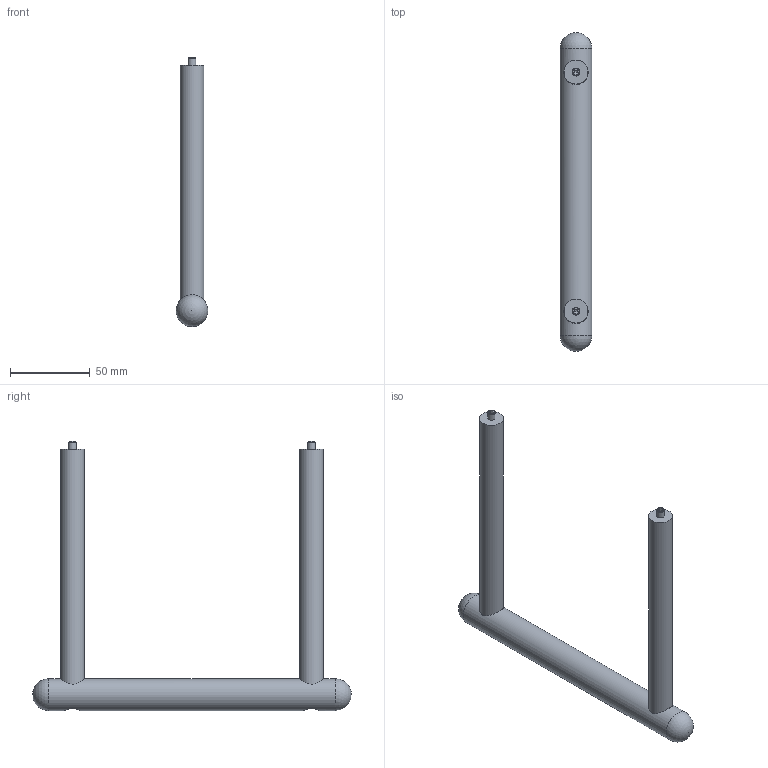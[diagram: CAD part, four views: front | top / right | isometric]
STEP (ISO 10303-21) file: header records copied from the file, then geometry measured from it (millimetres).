
FILE_DESCRIPTION(/* description */ ('Poignée pour 159-008'),/* implementation_level */ '2;1');
FILE_NAME(/* name */ 'S:\Bureau-Technique\Dispositif\MA 155-062-30.stp',/* time_stamp */ '2019-02-28T08:11:03+01:00',/* author */ ('ms'),/* organization */ ('Marcel Aubert'),/* preprocessor_version */ 'ST-DEVELOPER v17.2',/* originating_system */ 'Autodesk Inventor 2019',/* authorisation */ '');
FILE_SCHEMA (('CONFIG_CONTROL_DESIGN'));
Length unit declared in the file: millimetre
Products named in the file (5): MA 155-062-30; TIG-126-11; TIG-126-21; ISO 4762 - M5 x 12; ISO 4026 - M5 x 10
Assembly tree (7 placements, depth 2):
  MA 155-062-30
    TIG-126-11  x2
    TIG-126-21
    ISO 4762 - M5 x 12  x2
    ISO 4026 - M5 x 10  x2
Bounding box: 20 x 200 x 169 mm (x, y, z)
Volume: 110949.8 mm3; surface area: 30472.1 mm2
Topology: 7 solids, 7 shells, 81 faces, 213 edges, 148 vertices
Faces by surface type: plane 42, cylinder 19, cone 14, torus 4, sphere 2
Full cylindrical faces by diameter (mm): 4.134 x4, 5 x4, 5.5 x2, 8.5 x2, 10 x2, 15 x2, 15.2 x2, 20 x1
Entity records: 1825 total; most frequent: CARTESIAN_POINT 449, DIRECTION 266, ORIENTED_EDGE 238, EDGE_CURVE 119, AXIS2_PLACEMENT_3D 110, VERTEX_POINT 87, EDGE_LOOP 58, CIRCLE 51
